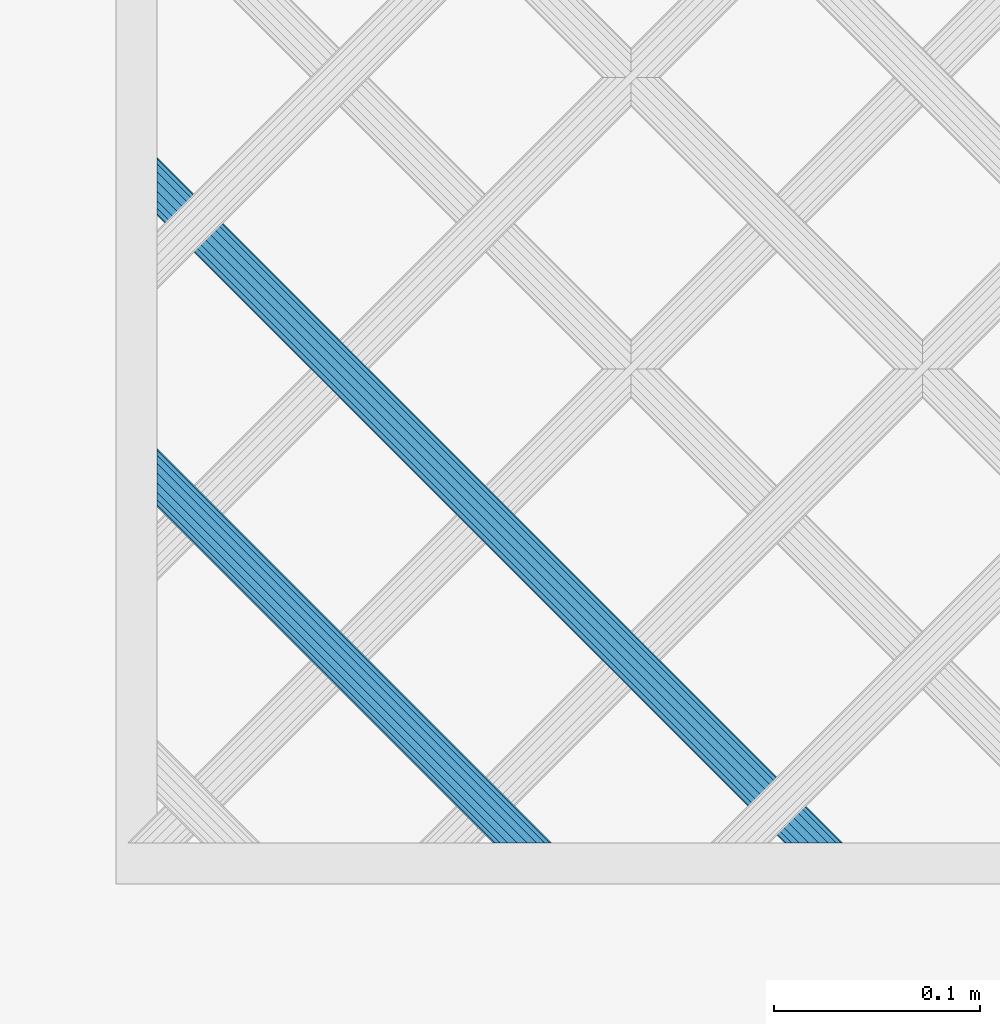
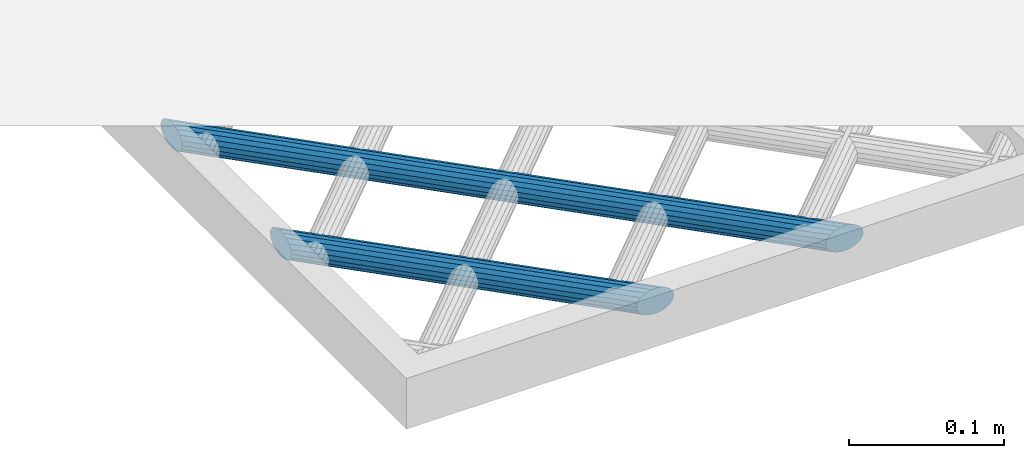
# One storey, part 40 of 133: 2 members, 1 element without a shape of its own.
"""IFC2X3 building model written with IfcOpenShell, lengths in centimetres."""

from ifc_helpers import new_model, entity, si_unit, converted_unit, direction, frame, origin, origin_with_axes, place, context, subcontext, project, spatial, faceted_brep, material, type_object, element, aggregate, save


model = new_model("IFC2X3")

# Units and contexts
model_context = context("Model", 3, precision=0.0001, world=origin(), true_north=direction((0.225632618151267, 0.974212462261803, 0.0)))
body_context = subcontext(model_context, "Body", "Model", "MODEL_VIEW")
ifc_project = project(units=[si_unit("LENGTHUNIT", "METRE", prefix="CENTI"), si_unit("AREAUNIT", "SQUARE_METRE", prefix="CENTI"), si_unit("VOLUMEUNIT", "CUBIC_METRE", prefix="CENTI"), converted_unit("PLANEANGLEUNIT", "DEGREE", entity("IfcRatioMeasure", 0.0174532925), si_unit("PLANEANGLEUNIT", "RADIAN"), dimensions=[0, 0, 0, 0, 0, 0, 0])], contexts=[model_context])

# Site, building, storey
site_placement = place(None, origin_with_axes())
site = spatial("IfcSite", under=ifc_project, at=site_placement, Name="Default Site", CompositionType="ELEMENT")
building_placement = place(site_placement, origin_with_axes())
building = spatial("IfcBuilding", under=site, at=building_placement, Name="Default Building", CompositionType="ELEMENT")
storey_placement = place(building_placement, frame((0.0, 0.0, -291.400371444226), z_axis=(0.0, 0.0, 1.0), x_axis=(1.0, 0.0, 0.0)))
storey = spatial("IfcBuildingStorey", under=building, at=storey_placement, Name="Rez-de-Jardin", CompositionType="ELEMENT", Elevation=-291.400371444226)

# Assembly, members
building_element_proxy_type = type_object("IfcBuildingElementProxyType", Name="Type Object", PredefinedType="NOTDEFINED")
assembly_placement = place(storey_placement, frame((900.320251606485, -1301.00060342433, -48.0), z_axis=(0.0, 1.0, -2.38697950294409e-15), x_axis=(1.0, 0.0, 0.0)))
assembly = element("IfcElementAssembly", 1, at=assembly_placement, inside=storey, type_object=building_element_proxy_type, Name="Panneau 294718", ObjectType="Precast panel", PredefinedType="USERDEFINED")
ifc_material = material(Name="Aluminium satiné")
member_1_placement = place(assembly_placement, frame((32.5289368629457, 0.342020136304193, 1.99999995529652), z_axis=(1.16937776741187e-15, 1.43218081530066e-15, -1.0), x_axis=(-0.632457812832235, -0.774594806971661, -1.84894192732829e-15)))
member_1 = element("IfcMember", 2, at=member_1_placement, material=ifc_material, Name="4294966675", context=body_context, shape_type="Brep", body=[
    faceted_brep([(8.88178419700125e-14, -1.74860126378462e-13, 3.7470027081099e-14), (-0.388290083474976, -1.77635683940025e-13, 3.81879528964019e-14), (-0.799166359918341, -0.150246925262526, 3.89476392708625e-14), (-1.1830751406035, -0.432623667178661, 3.96574643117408e-14), (-1.49370756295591, -0.813066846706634, 4.02318056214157e-14), (-1.69359804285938, -1.24569095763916, 4.0601391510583e-14), (-1.75863665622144, -1.67831484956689, 4.07216441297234e-14), (-1.68098087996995, -2.05876033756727, 4.05780631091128e-14), (-1.46999321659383, -2.34113520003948, 4.01879591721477e-14), (-1.151126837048, -2.49138695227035, 3.959839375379e-14), (-0.762836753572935, -2.49138695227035, 3.88804679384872e-14), (-0.35196047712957, -2.341140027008, 3.81207815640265e-14), (0.0319464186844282, -2.05876559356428, 3.74109600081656e-14), (0.342578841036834, -1.67832241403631, 3.68366186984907e-14), (0.542471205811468, -1.24569599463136, 3.6467029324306e-14), (0.607509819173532, -0.813072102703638, 3.63467767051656e-14), (0.529854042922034, -0.432626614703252, 3.64903577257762e-14), (0.318866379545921, -0.150251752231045, 3.68804616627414e-14), (19.573191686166, 23.4312426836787, -30.4436516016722), (19.838118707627, 23.2149293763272, -30.5289369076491), (20.0710916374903, 23.024706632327, -30.7745140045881), (20.2440104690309, 22.8835181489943, -31.1507564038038), (20.3360186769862, 22.8083933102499, -31.6122900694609), (20.3360186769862, 22.8083933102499, -32.1034412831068), (20.2440104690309, 22.8835181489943, -32.5649719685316), (20.0710916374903, 23.024706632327, -32.9412143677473), (19.838118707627, 23.2149293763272, -33.1867914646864), (19.573191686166, 23.4312426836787, -33.2720767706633), (19.3082646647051, 23.6475559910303, -33.1867914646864), (19.0752917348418, 23.8377787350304, -32.9412143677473), (18.9023729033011, 23.9789672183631, -32.5649719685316), (18.8103646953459, 24.0540920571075, -32.1034412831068), (18.8103646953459, 24.0540920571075, -31.6122900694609), (18.9023729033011, 23.9789672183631, -31.1507564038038), (19.0752917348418, 23.8377787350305, -30.7745140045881), (19.3082646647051, 23.6475559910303, -30.5289369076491), (0.318866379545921, -0.150251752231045, 3.67761376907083e-14), (0.52985315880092, -0.432627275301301, -1.07086508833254e-06), (19.8381178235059, 23.2149287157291, -30.5289379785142), (0.529854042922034, -0.432626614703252, 3.67761376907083e-14), (0.607510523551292, -0.813071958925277, 5.56859224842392e-07), (20.0710923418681, 23.0247067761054, -30.774513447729), (19.838118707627, 23.2149293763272, -30.5289369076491), (0.607509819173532, -0.813072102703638, 3.60822483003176e-14), (0.542470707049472, -1.24569591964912, -2.57365029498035e-07), (20.2440099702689, 22.8835182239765, -31.1507566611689), (0.542471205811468, -1.24569599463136, 3.64291929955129e-14), (0.342579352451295, -1.67832265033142, 1.40415140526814e-07), (20.3360191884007, 22.8083930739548, -31.6122899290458), (0.342578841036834, -1.67832241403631, 3.67761376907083e-14), (0.0319464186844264, -2.05876559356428, 3.7470027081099e-14), (0.0319464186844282, -2.05876559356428, 3.7470027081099e-14), (-0.351960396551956, -2.34114013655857, -3.38953281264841e-08), (20.2440105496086, 22.8835180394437, -32.564972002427), (-0.35196047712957, -2.341140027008, 3.81639164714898e-14), (-0.762836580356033, -2.49138742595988, -2.57365026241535e-07), (20.0710918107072, 23.0247061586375, -32.9412146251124), (-0.762836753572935, -2.49138695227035, 3.88578058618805e-14), (-1.15112683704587, -2.49138623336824, 5.568592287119e-07), (19.8381187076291, 23.2149300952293, -33.1867909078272), (-1.151126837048, -2.49138695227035, 3.98986399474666e-14), (-1.46999368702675, -2.34113619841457, -1.0708650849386e-06), (19.5731912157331, 23.4312416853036, -33.2720778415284), (-1.46999321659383, -2.34113520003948, 4.02455846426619e-14), (-1.68097999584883, -2.05875967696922, 1.07086516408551e-06), (19.3082655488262, 23.6475566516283, -33.1867903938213), (-1.68098087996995, -2.05876033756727, 4.05925293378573e-14), (-1.7586373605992, -1.67831499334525, -5.56859147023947e-07), (19.075291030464, 23.8377785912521, -32.9412149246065), (-1.75863665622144, -1.67831484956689, 4.09394740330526e-14), (-1.69359754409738, -1.2456910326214, 2.57365107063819e-07), (18.9023734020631, 23.9789671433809, -32.5649717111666), (19.0752917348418, 23.8377787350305, -32.9412143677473), (-1.69359804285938, -1.24569095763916, 4.09394740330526e-14), (-1.49370743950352, -0.813066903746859, 3.38954051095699e-08), (18.8103648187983, 24.0540920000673, -32.1034412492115), (-1.49370756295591, -0.813066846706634, 4.02455846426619e-14), (-1.1830751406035, -0.432623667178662, 3.95516952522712e-14), (-1.1830751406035, -0.432623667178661, 3.95516952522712e-14), (-0.799166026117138, -0.150247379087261, -1.40415064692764e-07), (18.9023732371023, 23.9789667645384, -31.1507565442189), (-0.799166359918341, -0.150246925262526, 3.92047505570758e-14), (-0.38829025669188, 4.73689353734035e-07, 2.57365105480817e-07), (19.0752915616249, 23.83777920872, -30.7745137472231), (-0.388290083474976, -1.77635683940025e-13, 3.81639164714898e-14), (-2.04080750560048e-12, -7.18902287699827e-07, -5.56859152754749e-07), (19.3082646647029, 23.6475552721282, -30.5289374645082), (0.318866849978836, -0.150250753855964, 1.07086516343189e-06), (19.573192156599, 23.4312436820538, -30.4436505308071), (19.3082646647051, 23.6475559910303, -30.5289369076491)], [[[0, 1, 2, 3, 4, 5, 6, 7, 8, 9, 10, 11, 12, 13, 14, 15, 16, 17]], [[18, 19, 20, 21, 22, 23, 24, 25, 26, 27, 28, 29, 30, 31, 32, 33, 34, 35]], [[36, 37, 38, 18]], [[39, 40, 41, 42]], [[43, 44, 45, 20]], [[46, 47, 48, 21]], [[49, 50, 23, 22]], [[51, 52, 53, 23]], [[54, 55, 56, 24]], [[57, 58, 59, 25]], [[60, 61, 62, 26]], [[63, 64, 65, 27]], [[66, 67, 68, 28]], [[69, 70, 71, 72]], [[73, 74, 75, 30]], [[76, 77, 32, 31]], [[78, 79, 80, 32]], [[81, 82, 83, 33]], [[84, 85, 86, 34]], [[0, 87, 88, 89]]]),
])
member_2_placement = place(assembly_placement, frame((18.3868020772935, 0.342020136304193, 1.99999995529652), z_axis=(1.16937634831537e-15, 1.43218776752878e-15, -1.0), x_axis=(-0.632455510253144, -0.774596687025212, -1.84894641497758e-15)))
member_2 = element("IfcMember", 3, at=member_2_placement, material=ifc_material, Name="4294966674", context=body_context, shape_type="Brep", body=[
    faceted_brep([(-4.9960036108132e-14, -2.08166817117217e-13, -1.56819002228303e-13), (-0.388289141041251, -2.08166817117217e-13, -1.56101076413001e-13), (-0.799165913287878, -0.15024930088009, -1.55341387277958e-13), (-1.18307291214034, -0.43262602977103, -1.54631563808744e-13), (-1.49370420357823, -0.813070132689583, -1.54057223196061e-13), (-1.69359339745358, -1.24569483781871, -1.53687638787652e-13), (-1.75863166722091, -1.67832007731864, -1.53567386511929e-13), (-1.6809738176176, -2.0587641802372, -1.53710971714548e-13), (-1.4699862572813, -2.34113956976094, -1.54101076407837e-13), (-1.15111848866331, -2.49138921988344, -1.54690645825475e-13), (-0.762829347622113, -2.49138921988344, -1.55408571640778e-13), (-0.351952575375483, -2.34113991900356, -1.56168260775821e-13), (0.0319534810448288, -2.05876434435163, -1.56878082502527e-13), (0.342584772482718, -1.67832024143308, -1.57452423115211e-13), (0.542474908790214, -1.24569438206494, -1.57822009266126e-13), (0.60751317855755, -0.813069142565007, -1.57942261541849e-13), (0.52985532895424, -0.432625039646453, -1.5779867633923e-13), (0.318867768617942, -0.150249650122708, -1.57408571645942e-13), (10.6288509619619, 12.4768501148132, -16.3015153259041), (10.8937786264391, 12.2605375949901, -16.3868021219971), (11.1267521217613, 12.0703155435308, -16.63237772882), (11.299671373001, 11.9291275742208, -17.0086216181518), (11.3916798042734, 11.8540030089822, -17.4701537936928), (11.3916798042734, 11.8540030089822, -17.9613050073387), (11.299671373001, 11.9291275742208, -18.4228356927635), (11.1267521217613, 12.0703155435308, -18.7990795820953), (10.8937786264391, 12.2605375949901, -19.0446551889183), (10.6288509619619, 12.4768501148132, -19.1299419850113), (10.3639232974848, 12.6931626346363, -19.0446551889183), (10.1309498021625, 12.8833846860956, -18.7990795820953), (9.95803055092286, 13.0245726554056, -18.4228356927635), (9.86602211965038, 13.0996972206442, -17.9613050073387), (9.86602211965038, 13.0996972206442, -17.4701537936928), (9.95803055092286, 13.0245726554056, -17.0086216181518), (10.1309498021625, 12.8833846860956, -16.63237772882), (10.3639232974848, 12.6931626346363, -16.3868021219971), (0.318867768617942, -0.150249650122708, -1.57165946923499e-13), (0.529855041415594, -0.432625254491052, -3.48273473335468e-07), (10.8937783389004, 12.2605373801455, -16.3868024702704), (0.52985532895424, -0.432625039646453, -1.57512891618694e-13), (0.607513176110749, -0.813069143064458, -1.93452412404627e-09), (11.1267521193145, 12.0703155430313, -16.6323777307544), (0.60751317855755, -0.813069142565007, -1.57859836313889e-13), (0.542475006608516, -1.24569439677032, 5.04748236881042e-08), (11.2996714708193, 11.9291275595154, -17.0086215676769), (0.542474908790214, -1.24569438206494, -1.57859836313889e-13), (0.342584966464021, -1.67832033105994, 5.32597120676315e-08), (11.3916799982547, 11.8540029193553, -17.4701537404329), (0.342584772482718, -1.67832024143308, -1.57165946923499e-13), (0.031953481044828, -2.05876434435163, -1.56819002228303e-13), (0.0319534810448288, -2.05876434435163, -1.56819002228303e-13), (-0.351952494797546, -2.34114002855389, -3.38955214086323e-08), (11.2996714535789, 11.9291274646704, -18.4228357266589), (-0.351952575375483, -2.34113991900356, -1.56125112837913e-13), (-0.762829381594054, -2.49138912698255, 5.04748251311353e-08), (11.1267520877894, 12.0703156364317, -18.7990795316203), (-0.762829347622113, -2.49138921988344, -1.55431223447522e-13), (-1.15111848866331, -2.4913892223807, -1.93452046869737e-09), (10.8937786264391, 12.2605375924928, -19.0446551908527), (-1.15111848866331, -2.49138921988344, -1.54390389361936e-13), (-1.46998641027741, -2.34113989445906, -3.48273470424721e-07), (10.6288508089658, 12.4768497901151, -19.1299423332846), (-1.4699862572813, -2.34113956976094, -1.5404344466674e-13), (-1.68097353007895, -2.0587639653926, 3.48273162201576e-07), (10.3639235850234, 12.6931628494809, -19.044654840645), (-1.6809738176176, -2.0587641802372, -1.53696499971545e-13), (-1.75863166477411, -1.67832007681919, 1.93421315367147e-09), (10.1309498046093, 12.883384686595, -18.799079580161), (-1.75863166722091, -1.67832007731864, -1.5334955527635e-13), (-1.69359349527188, -1.24569482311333, -5.04751337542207e-08), (9.95803045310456, 13.024572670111, -18.4228357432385), (-1.69359339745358, -1.24569483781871, -1.5334955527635e-13), (-1.49370408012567, -0.813070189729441, 3.38952109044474e-08), (9.86602224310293, 13.0996971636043, -17.9613049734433), (9.95803055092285, 13.0245726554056, -18.4228356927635), (-1.49370420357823, -0.813070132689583, -1.5404344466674e-13), (-1.18307291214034, -0.43262602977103, -1.54390389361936e-13), (-0.79916578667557, -0.150249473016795, -5.32600245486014e-08), (9.95803067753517, 13.0245724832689, -17.0086216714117), (-0.799165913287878, -0.15024930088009, -1.55084278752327e-13), (-0.388289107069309, -9.29010993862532e-08, -5.04751368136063e-08), (10.1309498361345, 12.8833845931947, -16.632377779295), (-0.388289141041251, -2.08166817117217e-13, -1.55778168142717e-13), (-4.99857336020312e-14, 2.49704779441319e-09, 1.93420935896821e-09), (10.3639232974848, 12.6931626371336, -16.3868021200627), (0.318867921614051, -0.150249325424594, 3.4827315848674e-07), (10.628851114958, 12.4768504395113, -16.3015149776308)], [[[0, 1, 2, 3, 4, 5, 6, 7, 8, 9, 10, 11, 12, 13, 14, 15, 16, 17]], [[18, 19, 20, 21, 22, 23, 24, 25, 26, 27, 28, 29, 30, 31, 32, 33, 34, 35]], [[36, 37, 38, 18]], [[39, 40, 41, 19]], [[42, 43, 44, 20]], [[45, 46, 47, 21]], [[48, 49, 23, 22]], [[50, 51, 52, 23]], [[53, 54, 55, 24]], [[56, 57, 58, 25]], [[59, 60, 61, 26]], [[62, 63, 64, 27]], [[65, 66, 67, 28]], [[68, 69, 70, 29]], [[71, 72, 73, 74]], [[75, 76, 32, 31]], [[76, 77, 78, 32]], [[79, 80, 81, 33]], [[82, 83, 84, 34]], [[0, 85, 86, 35]]]),
])
aggregate(assembly, [member_1, member_2])

save(model, "model.ifc")
